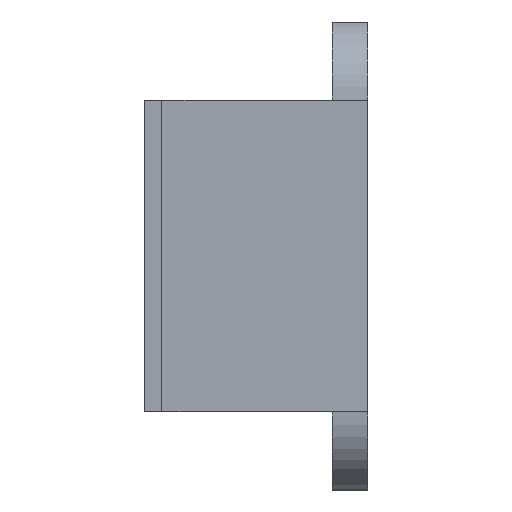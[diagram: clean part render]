
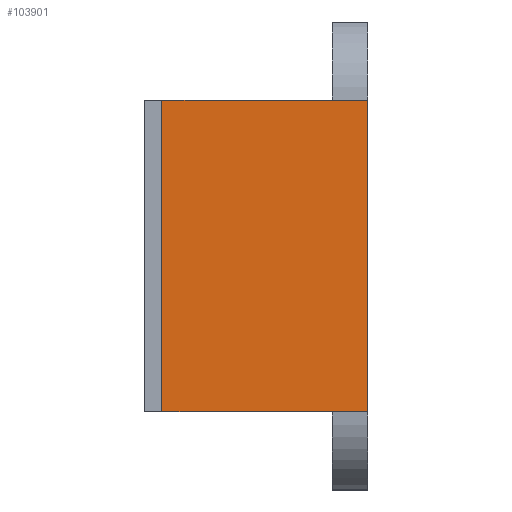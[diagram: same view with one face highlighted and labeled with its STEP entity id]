
A CAD part, left-side view. The second image highlights one B-rep face of the part: STEP entity #103901.
In plain terms, the highlighted planar face has unit normal (-1, 0, 0).
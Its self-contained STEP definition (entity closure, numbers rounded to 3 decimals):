
#3578 = CARTESIAN_POINT ( 'NONE',  ( -48.25, 17.5, 13.25 ) ) ;
#6696 = ORIENTED_EDGE ( 'NONE', *, *, #163540, .T. ) ;
#10661 = ORIENTED_EDGE ( 'NONE', *, *, #66101, .F. ) ;
#11587 = EDGE_CURVE ( 'NONE', #105452, #75685, #84104, .T. ) ;
#13446 = DIRECTION ( 'NONE',  ( 0., -1., 0. ) ) ;
#15941 = LINE ( 'NONE', #72614, #83664 ) ;
#19392 = FACE_OUTER_BOUND ( 'NONE', #43786, .T. ) ;
#29783 = VERTEX_POINT ( 'NONE', #97386 ) ;
#32948 = CARTESIAN_POINT ( 'NONE',  ( -48.25, 17.5, 13.25 ) ) ;
#34472 = VECTOR ( 'NONE', #90540, 1000. ) ;
#39464 = DIRECTION ( 'NONE',  ( 0., -1., 0. ) ) ;
#42337 = DIRECTION ( 'NONE',  ( 0., 0., 1. ) ) ;
#43786 = EDGE_LOOP ( 'NONE', ( #6696, #59774, #10661, #156408, #166395 ) ) ;
#45489 = PLANE ( 'NONE',  #81555 ) ;
#46411 = DIRECTION ( 'NONE',  ( 0., 0., -1. ) ) ;
#46761 = VERTEX_POINT ( 'NONE', #85323 ) ;
#56290 = EDGE_CURVE ( 'NONE', #29783, #46761, #15941, .T. ) ;
#59774 = ORIENTED_EDGE ( 'NONE', *, *, #11587, .F. ) ;
#66101 = EDGE_CURVE ( 'NONE', #168711, #105452, #182606, .T. ) ;
#72614 = CARTESIAN_POINT ( 'NONE',  ( -48.25, 17.5, -13.25 ) ) ;
#75685 = VERTEX_POINT ( 'NONE', #158393 ) ;
#76469 = CARTESIAN_POINT ( 'NONE',  ( -48.25, 3., 13.25 ) ) ;
#78420 = LINE ( 'NONE', #32948, #34472 ) ;
#81555 = AXIS2_PLACEMENT_3D ( 'NONE', #3578, #173747, #46411 ) ;
#83664 = VECTOR ( 'NONE', #172166, 1000. ) ;
#84104 = LINE ( 'NONE', #140882, #129246 ) ;
#85323 = CARTESIAN_POINT ( 'NONE',  ( -48.25, 0., -13.25 ) ) ;
#90540 = DIRECTION ( 'NONE',  ( 0., 0., 1. ) ) ;
#97386 = CARTESIAN_POINT ( 'NONE',  ( -48.25, 17.5, -13.25 ) ) ;
#103901 = ADVANCED_FACE ( 'NONE', ( #19392 ), #45489, .F. ) ;
#105452 = VERTEX_POINT ( 'NONE', #76469 ) ;
#110985 = CARTESIAN_POINT ( 'NONE',  ( -48.25, 17.5, 13.25 ) ) ;
#113897 = LINE ( 'NONE', #171547, #179991 ) ;
#129246 = VECTOR ( 'NONE', #13446, 1000. ) ;
#140882 = CARTESIAN_POINT ( 'NONE',  ( -48.25, 3., 13.25 ) ) ;
#147669 = EDGE_CURVE ( 'NONE', #29783, #168711, #78420, .T. ) ;
#156408 = ORIENTED_EDGE ( 'NONE', *, *, #147669, .F. ) ;
#158393 = CARTESIAN_POINT ( 'NONE',  ( -48.25, 0., 13.25 ) ) ;
#160159 = VECTOR ( 'NONE', #39464, 1000. ) ;
#163540 = EDGE_CURVE ( 'NONE', #46761, #75685, #113897, .T. ) ;
#164767 = CARTESIAN_POINT ( 'NONE',  ( -48.25, 17.5, 13.25 ) ) ;
#166395 = ORIENTED_EDGE ( 'NONE', *, *, #56290, .T. ) ;
#168711 = VERTEX_POINT ( 'NONE', #164767 ) ;
#171547 = CARTESIAN_POINT ( 'NONE',  ( -48.25, 0., 13.25 ) ) ;
#172166 = DIRECTION ( 'NONE',  ( 0., -1., 0. ) ) ;
#173747 = DIRECTION ( 'NONE',  ( 1., 0., 0. ) ) ;
#179991 = VECTOR ( 'NONE', #42337, 1000. ) ;
#182606 = LINE ( 'NONE', #110985, #160159 ) ;
